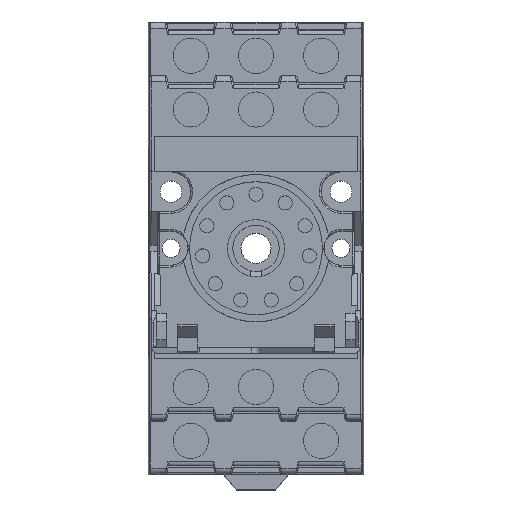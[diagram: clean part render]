
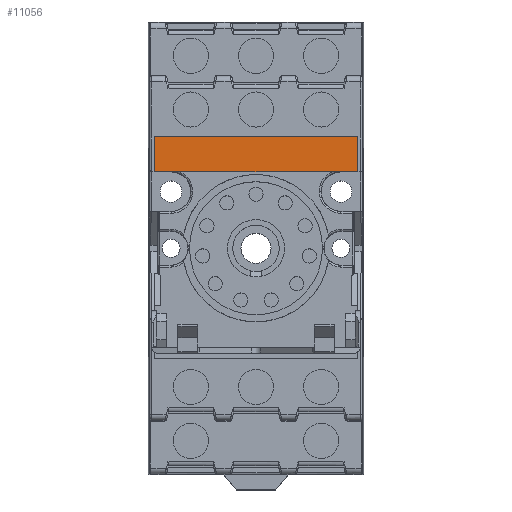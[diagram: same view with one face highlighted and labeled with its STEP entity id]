
A CAD part, top view. The second image highlights one B-rep face of the part: STEP entity #11056.
In plain terms, the highlighted planar face has unit normal (0, 0, 1).
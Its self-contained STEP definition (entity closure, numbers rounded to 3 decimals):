
#123 = CARTESIAN_POINT ( 'NONE',  ( 36.9, 59.248, 24.4 ) ) ;
#835 = VERTEX_POINT ( 'NONE', #16227 ) ;
#1140 = EDGE_CURVE ( 'NONE', #835, #9075, #14340, .T. ) ;
#1228 = LINE ( 'NONE', #28571, #26442 ) ;
#1450 = ORIENTED_EDGE ( 'NONE', *, *, #10847, .T. ) ;
#1631 = ORIENTED_EDGE ( 'NONE', *, *, #27197, .F. ) ;
#1868 = ORIENTED_EDGE ( 'NONE', *, *, #1140, .F. ) ;
#3945 = DIRECTION ( 'NONE',  ( -1., 0., 0. ) ) ;
#6445 = LINE ( 'NONE', #16549, #29388 ) ;
#6535 = DIRECTION ( 'NONE',  ( 0., 1., 0. ) ) ;
#8087 = CARTESIAN_POINT ( 'NONE',  ( 36.9, 56.148, 24.4 ) ) ;
#9075 = VERTEX_POINT ( 'NONE', #28312 ) ;
#9885 = PLANE ( 'NONE',  #12019 ) ;
#10847 = EDGE_CURVE ( 'NONE', #19569, #9075, #6445, .T. ) ;
#11056 = ADVANCED_FACE ( 'NONE', ( #14837 ), #9885, .T. ) ;
#12019 = AXIS2_PLACEMENT_3D ( 'NONE', #15000, #19828, #17002 ) ;
#14340 = LINE ( 'NONE', #27036, #18787 ) ;
#14837 = FACE_OUTER_BOUND ( 'NONE', #26351, .T. ) ;
#15000 = CARTESIAN_POINT ( 'NONE',  ( 1.1, 56.148, 24.4 ) ) ;
#15518 = DIRECTION ( 'NONE',  ( 0., -1., 0. ) ) ;
#15662 = ORIENTED_EDGE ( 'NONE', *, *, #18280, .T. ) ;
#16227 = CARTESIAN_POINT ( 'NONE',  ( 1.1, 56.148, 24.4 ) ) ;
#16549 = CARTESIAN_POINT ( 'NONE',  ( 19., 62.348, 24.4 ) ) ;
#17002 = DIRECTION ( 'NONE',  ( 1., 0., 0. ) ) ;
#17879 = VERTEX_POINT ( 'NONE', #8087 ) ;
#18280 = EDGE_CURVE ( 'NONE', #835, #17879, #1228, .T. ) ;
#18787 = VECTOR ( 'NONE', #6535, 1000. ) ;
#19569 = VERTEX_POINT ( 'NONE', #26627 ) ;
#19828 = DIRECTION ( 'NONE',  ( 0., 0., 1. ) ) ;
#22893 = LINE ( 'NONE', #123, #25414 ) ;
#25414 = VECTOR ( 'NONE', #15518, 1000. ) ;
#26351 = EDGE_LOOP ( 'NONE', ( #15662, #1631, #1450, #1868 ) ) ;
#26442 = VECTOR ( 'NONE', #29225, 1000. ) ;
#26627 = CARTESIAN_POINT ( 'NONE',  ( 36.9, 62.348, 24.4 ) ) ;
#27036 = CARTESIAN_POINT ( 'NONE',  ( 1.1, 59.248, 24.4 ) ) ;
#27197 = EDGE_CURVE ( 'NONE', #19569, #17879, #22893, .T. ) ;
#28312 = CARTESIAN_POINT ( 'NONE',  ( 1.1, 62.348, 24.4 ) ) ;
#28571 = CARTESIAN_POINT ( 'NONE',  ( 19., 56.148, 24.4 ) ) ;
#29225 = DIRECTION ( 'NONE',  ( 1., 0., 0. ) ) ;
#29388 = VECTOR ( 'NONE', #3945, 1000. ) ;
